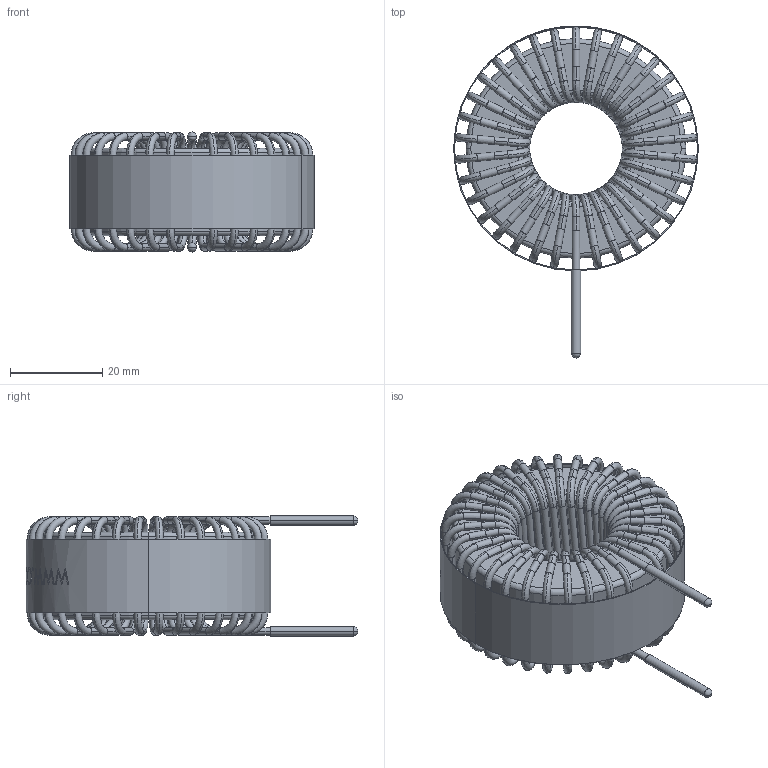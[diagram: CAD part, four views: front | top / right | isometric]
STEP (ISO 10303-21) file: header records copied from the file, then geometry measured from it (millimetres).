
FILE_DESCRIPTION (( 'STEP AP214' ), '1' );
FILE_NAME ('HF 467 -151M-20AV.step', '2021-03-04T09:49:51', ( '' ), ( '' ), 'SwSTEP 2.0', 'SolidWorks 2015', '' );
FILE_SCHEMA (( 'AUTOMOTIVE_DESIGN' ));
Length unit declared in the file: millimetre
Products named in the file (4): WINDING; CORE; HF 467 -151M-20AV; WRAPPER
Assembly tree (3 placements, depth 2):
  HF 467 -151M-20AV
    CORE
    WINDING
    WRAPPER
Bounding box: 53.03 x 71.9 x 26 mm (x, y, z)
Volume: 31098 mm3; surface area: 24690.8 mm2
Topology: 38 solids, 38 shells, 858 faces, 2296 edges, 1526 vertices
Faces by surface type: cylinder 366, torus 276, plane 109, bspline 103, sphere 4
Entity records: 46302 total; most frequent: CARTESIAN_POINT 14937, DIRECTION 5052, ORIENTED_EDGE 4576, AXIS2_PLACEMENT_3D 2341, EDGE_CURVE 2288, CIRCLE 1580, VERTEX_POINT 1522, EDGE_LOOP 878
